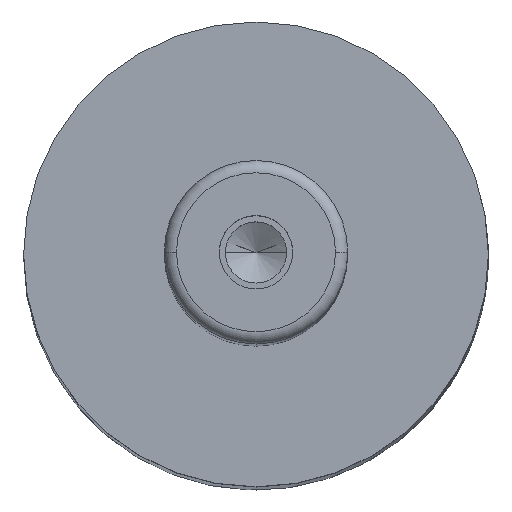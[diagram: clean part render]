
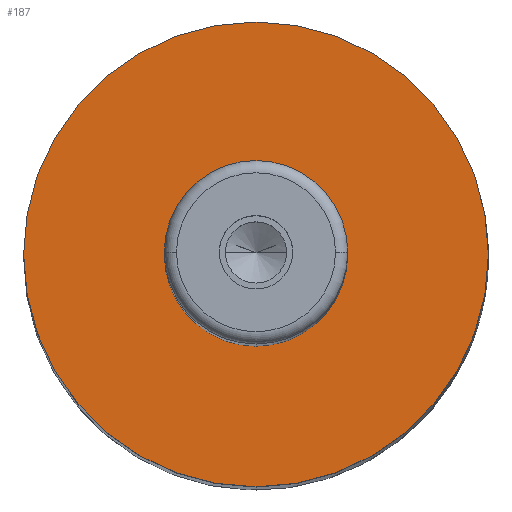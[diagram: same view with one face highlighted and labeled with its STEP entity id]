
A CAD part, top view. The second image highlights one B-rep face of the part: STEP entity #187.
In plain terms, the highlighted planar face has unit normal (0, 0, 1).
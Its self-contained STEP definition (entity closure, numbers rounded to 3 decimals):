
#109=PLANE('',#1002);
#132=FACE_BOUND('',#299,.T.);
#133=FACE_BOUND('',#300,.T.);
#187=ADVANCED_FACE('',(#132,#133),#109,.T.);
#299=EDGE_LOOP('',(#463,#464));
#300=EDGE_LOOP('',(#465,#466));
#367=CIRCLE('',#996,7.5);
#368=CIRCLE('',#998,7.5);
#369=CIRCLE('',#1000,19.);
#370=CIRCLE('',#1001,19.);
#463=ORIENTED_EDGE('',*,*,#766,.F.);
#464=ORIENTED_EDGE('',*,*,#767,.F.);
#465=ORIENTED_EDGE('',*,*,#765,.T.);
#466=ORIENTED_EDGE('',*,*,#763,.T.);
#676=VERTEX_POINT('',#1435);
#677=VERTEX_POINT('',#1437);
#678=VERTEX_POINT('',#1443);
#679=VERTEX_POINT('',#1444);
#763=EDGE_CURVE('',#677,#676,#367,.T.);
#765=EDGE_CURVE('',#676,#677,#368,.T.);
#766=EDGE_CURVE('',#678,#679,#369,.T.);
#767=EDGE_CURVE('',#679,#678,#370,.T.);
#996=AXIS2_PLACEMENT_3D('',#1436,#1150,#1151);
#998=AXIS2_PLACEMENT_3D('',#1440,#1155,#1156);
#1000=AXIS2_PLACEMENT_3D('',#1442,#1159,#1160);
#1001=AXIS2_PLACEMENT_3D('',#1445,#1161,#1162);
#1002=AXIS2_PLACEMENT_3D('',#1446,#1163,#1164);
#1150=DIRECTION('',(0.,0.,-1.));
#1151=DIRECTION('',(0.,1.,0.));
#1155=DIRECTION('',(0.,0.,-1.));
#1156=DIRECTION('',(0.,-1.,0.));
#1159=DIRECTION('',(0.,0.,-1.));
#1160=DIRECTION('',(0.,1.,0.));
#1161=DIRECTION('',(0.,0.,-1.));
#1162=DIRECTION('',(0.,-1.,0.));
#1163=DIRECTION('',(0.,0.,1.));
#1164=DIRECTION('',(0.,-1.,0.));
#1435=CARTESIAN_POINT('',(-7.5,0.,148.));
#1436=CARTESIAN_POINT('',(0.,0.,148.));
#1437=CARTESIAN_POINT('',(7.5,0.,148.));
#1440=CARTESIAN_POINT('',(0.,0.,148.));
#1442=CARTESIAN_POINT('',(0.,0.,148.));
#1443=CARTESIAN_POINT('',(19.,0.,148.));
#1444=CARTESIAN_POINT('',(-19.,0.,148.));
#1445=CARTESIAN_POINT('',(0.,0.,148.));
#1446=CARTESIAN_POINT('',(0.,0.,148.));
